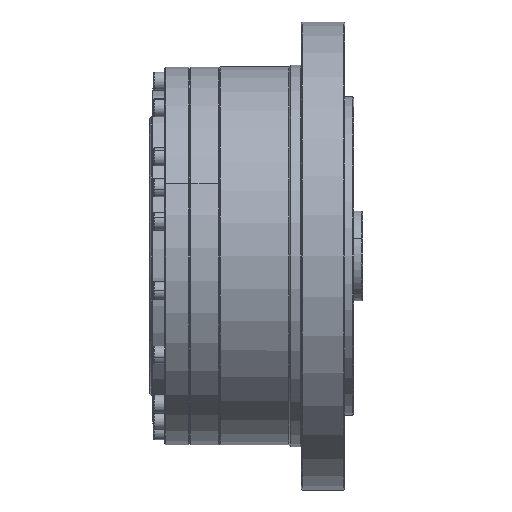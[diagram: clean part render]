
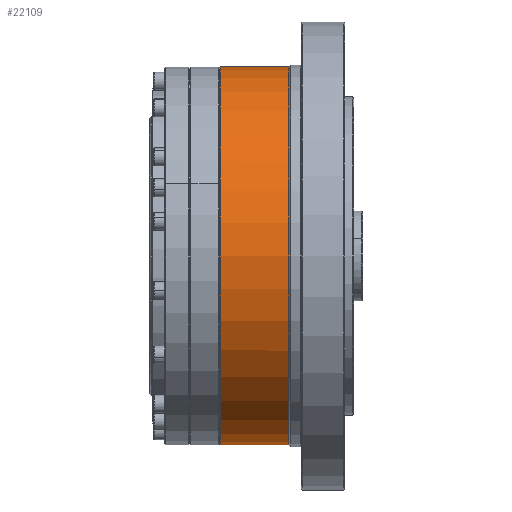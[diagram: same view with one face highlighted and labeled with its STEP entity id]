
A CAD part, front view. The second image highlights one B-rep face of the part: STEP entity #22109.
In plain terms, the highlighted cylindrical face has radius 105 mm (diameter 210 mm), a partial arc.
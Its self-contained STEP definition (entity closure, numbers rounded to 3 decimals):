
#104 = CIRCLE ( 'NONE', #17296, 105. ) ;
#1322 = DIRECTION ( 'NONE',  ( -1., 0., 0. ) ) ;
#2152 = VERTEX_POINT ( 'NONE', #10496 ) ;
#3491 = VECTOR ( 'NONE', #1322, 1000. ) ;
#4810 = EDGE_CURVE ( 'NONE', #5682, #24474, #37550, .T. ) ;
#4835 = CARTESIAN_POINT ( 'NONE',  ( 7.5, 0., 0. ) ) ;
#4975 = DIRECTION ( 'NONE',  ( 0., 0., -1. ) ) ;
#5682 = VERTEX_POINT ( 'NONE', #32603 ) ;
#6245 = FACE_OUTER_BOUND ( 'NONE', #7349, .T. ) ;
#7296 = ORIENTED_EDGE ( 'NONE', *, *, #14882, .F. ) ;
#7349 = EDGE_LOOP ( 'NONE', ( #7296, #22592, #13137, #12622 ) ) ;
#7580 = EDGE_CURVE ( 'NONE', #2152, #5682, #32551, .T. ) ;
#10496 = CARTESIAN_POINT ( 'NONE',  ( 45.5, 0., 105. ) ) ;
#11602 = LINE ( 'NONE', #25258, #3491 ) ;
#12622 = ORIENTED_EDGE ( 'NONE', *, *, #4810, .T. ) ;
#13137 = ORIENTED_EDGE ( 'NONE', *, *, #7580, .T. ) ;
#13199 = CARTESIAN_POINT ( 'NONE',  ( 45.5, 0., 0. ) ) ;
#13561 = DIRECTION ( 'NONE',  ( 1., 0., 0. ) ) ;
#14882 = EDGE_CURVE ( 'NONE', #25624, #24474, #11602, .T. ) ;
#15424 = DIRECTION ( 'NONE',  ( -1., 0., 0. ) ) ;
#16274 = DIRECTION ( 'NONE',  ( 0., 0., 1. ) ) ;
#16453 = VECTOR ( 'NONE', #15424, 1000. ) ;
#17296 = AXIS2_PLACEMENT_3D ( 'NONE', #13199, #34399, #16274 ) ;
#18584 = AXIS2_PLACEMENT_3D ( 'NONE', #20087, #19961, #32006 ) ;
#19961 = DIRECTION ( 'NONE',  ( -1., 0., 0. ) ) ;
#20087 = CARTESIAN_POINT ( 'NONE',  ( 55.519, 0., 0. ) ) ;
#21945 = EDGE_CURVE ( 'NONE', #25624, #2152, #104, .T. ) ;
#22109 = ADVANCED_FACE ( 'NONE', ( #6245 ), #27679, .T. ) ;
#22592 = ORIENTED_EDGE ( 'NONE', *, *, #21945, .T. ) ;
#24474 = VERTEX_POINT ( 'NONE', #29749 ) ;
#25258 = CARTESIAN_POINT ( 'NONE',  ( 55.519, 0., -105. ) ) ;
#25624 = VERTEX_POINT ( 'NONE', #28987 ) ;
#27679 = CYLINDRICAL_SURFACE ( 'NONE', #18584, 105. ) ;
#28987 = CARTESIAN_POINT ( 'NONE',  ( 45.5, 0., -105. ) ) ;
#29749 = CARTESIAN_POINT ( 'NONE',  ( 7.5, 0., -105. ) ) ;
#32006 = DIRECTION ( 'NONE',  ( 0., 0., 1. ) ) ;
#32551 = LINE ( 'NONE', #36571, #16453 ) ;
#32603 = CARTESIAN_POINT ( 'NONE',  ( 7.5, 0., 105. ) ) ;
#34399 = DIRECTION ( 'NONE',  ( -1., 0., 0. ) ) ;
#36571 = CARTESIAN_POINT ( 'NONE',  ( 55.519, 0., 105. ) ) ;
#37550 = CIRCLE ( 'NONE', #38659, 105. ) ;
#38659 = AXIS2_PLACEMENT_3D ( 'NONE', #4835, #13561, #4975 ) ;
